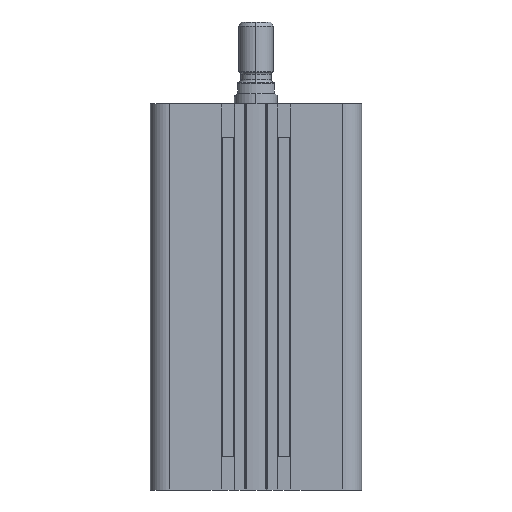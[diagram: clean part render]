
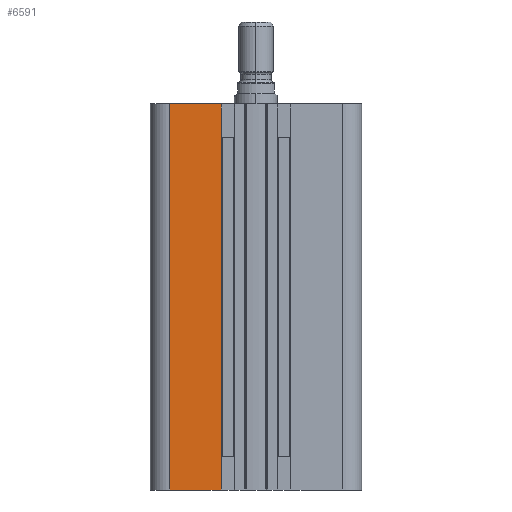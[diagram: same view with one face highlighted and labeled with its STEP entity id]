
A CAD part, left-side view. The second image highlights one B-rep face of the part: STEP entity #6591.
In plain terms, the highlighted planar face has unit normal (-1, 0, 0).
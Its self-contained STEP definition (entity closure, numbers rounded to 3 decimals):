
#24 = EDGE_CURVE ( 'NONE', #14476, #14270, #12435, .T. ) ;
#42 = EDGE_CURVE ( 'NONE', #14272, #14251, #12462, .T. ) ;
#58 = EDGE_CURVE ( 'NONE', #16599, #14476, #12492, .T. ) ;
#59 = EDGE_CURVE ( 'NONE', #16600, #7305, #12494, .T. ) ;
#356 = EDGE_CURVE ( 'NONE', #14251, #14270, #4906, .T. ) ;
#359 = EDGE_CURVE ( 'NONE', #14272, #7306, #4905, .T. ) ;
#1487 = LINE ( 'NONE', #2579, #1489 ) ;
#1489 = VECTOR ( 'NONE', #2580, 1000. ) ;
#2579 = CARTESIAN_POINT ( 'NONE',  ( -49., 49., -15.5 ) ) ;
#2580 = DIRECTION ( 'NONE',  ( 0., 1., 0. ) ) ;
#3935 = CARTESIAN_POINT ( 'NONE',  ( -49., 49., 163.5 ) ) ;
#3936 = DIRECTION ( 'NONE',  ( 0., -1., 0. ) ) ;
#4308 = CARTESIAN_POINT ( 'NONE',  ( -49., 49., 148. ) ) ;
#4314 = PLANE ( 'NONE',  #5363 ) ;
#4317 = DIRECTION ( 'NONE',  ( 1., 0., 0. ) ) ;
#4318 = DIRECTION ( 'NONE',  ( 0., 1., 0. ) ) ;
#4471 = CARTESIAN_POINT ( 'NONE',  ( -49., 49., 148. ) ) ;
#4489 = DIRECTION ( 'NONE',  ( 0., -1., 0. ) ) ;
#4905 = LINE ( 'NONE', #6821, #4912 ) ;
#4906 = LINE ( 'NONE', #6798, #4908 ) ;
#4908 = VECTOR ( 'NONE', #6809, 1000. ) ;
#4912 = VECTOR ( 'NONE', #6817, 1000. ) ;
#5210 = FACE_OUTER_BOUND ( 'NONE', #11451, .T. ) ;
#5363 = AXIS2_PLACEMENT_3D ( 'NONE', #4308, #4317, #4318 ) ;
#6591 = ADVANCED_FACE ( 'NONE', ( #5210 ), #4314, .F. ) ;
#6798 = CARTESIAN_POINT ( 'NONE',  ( -49., 15.875, 148. ) ) ;
#6809 = DIRECTION ( 'NONE',  ( 0., 0., 1. ) ) ;
#6817 = DIRECTION ( 'NONE',  ( 0., 0., -1. ) ) ;
#6821 = CARTESIAN_POINT ( 'NONE',  ( -49., 16.2, 288.493 ) ) ;
#7305 = VERTEX_POINT ( 'NONE', #8897 ) ;
#7306 = VERTEX_POINT ( 'NONE', #8898 ) ;
#8897 = CARTESIAN_POINT ( 'NONE',  ( -49., 40., -15.5 ) ) ;
#8898 = CARTESIAN_POINT ( 'NONE',  ( -49., 16.2, -15.5 ) ) ;
#9615 = LINE ( 'NONE', #3935, #9617 ) ;
#9617 = VECTOR ( 'NONE', #3936, 1000. ) ;
#9968 = CARTESIAN_POINT ( 'NONE',  ( -49., 15.875, 0. ) ) ;
#10009 = CARTESIAN_POINT ( 'NONE',  ( -49., 15.875, 148. ) ) ;
#10013 = CARTESIAN_POINT ( 'NONE',  ( -49., 16.2, 0. ) ) ;
#10437 = CARTESIAN_POINT ( 'NONE',  ( -49., 16.2, 148. ) ) ;
#11451 = EDGE_LOOP ( 'NONE', ( #12257, #12258, #12259, #12260, #12261, #12262, #12263, #12264 ) ) ;
#11915 = EDGE_CURVE ( 'NONE', #16600, #16599, #9615, .T. ) ;
#12048 = EDGE_CURVE ( 'NONE', #7306, #7305, #1487, .T. ) ;
#12257 = ORIENTED_EDGE ( 'NONE', *, *, #59, .T. ) ;
#12258 = ORIENTED_EDGE ( 'NONE', *, *, #12048, .F. ) ;
#12259 = ORIENTED_EDGE ( 'NONE', *, *, #359, .F. ) ;
#12260 = ORIENTED_EDGE ( 'NONE', *, *, #42, .T. ) ;
#12261 = ORIENTED_EDGE ( 'NONE', *, *, #356, .T. ) ;
#12262 = ORIENTED_EDGE ( 'NONE', *, *, #24, .F. ) ;
#12263 = ORIENTED_EDGE ( 'NONE', *, *, #58, .F. ) ;
#12264 = ORIENTED_EDGE ( 'NONE', *, *, #11915, .F. ) ;
#12435 = LINE ( 'NONE', #4471, #12437 ) ;
#12437 = VECTOR ( 'NONE', #4489, 1000. ) ;
#12462 = LINE ( 'NONE', #13895, #12465 ) ;
#12465 = VECTOR ( 'NONE', #13893, 1000. ) ;
#12492 = LINE ( 'NONE', #13030, #12497 ) ;
#12494 = LINE ( 'NONE', #13028, #12499 ) ;
#12497 = VECTOR ( 'NONE', #13026, 1000. ) ;
#12499 = VECTOR ( 'NONE', #13025, 1000. ) ;
#13025 = DIRECTION ( 'NONE',  ( 0., 0., -1. ) ) ;
#13026 = DIRECTION ( 'NONE',  ( 0., 0., -1. ) ) ;
#13028 = CARTESIAN_POINT ( 'NONE',  ( -49., 40., 148. ) ) ;
#13030 = CARTESIAN_POINT ( 'NONE',  ( -49., 16.2, 288.493 ) ) ;
#13893 = DIRECTION ( 'NONE',  ( 0., -1., 0. ) ) ;
#13895 = CARTESIAN_POINT ( 'NONE',  ( -49., 49., 0. ) ) ;
#14251 = VERTEX_POINT ( 'NONE', #9968 ) ;
#14270 = VERTEX_POINT ( 'NONE', #10009 ) ;
#14272 = VERTEX_POINT ( 'NONE', #10013 ) ;
#14476 = VERTEX_POINT ( 'NONE', #10437 ) ;
#15008 = CARTESIAN_POINT ( 'NONE',  ( -49., 16.2, 163.5 ) ) ;
#15009 = CARTESIAN_POINT ( 'NONE',  ( -49., 40., 163.5 ) ) ;
#16599 = VERTEX_POINT ( 'NONE', #15008 ) ;
#16600 = VERTEX_POINT ( 'NONE', #15009 ) ;
